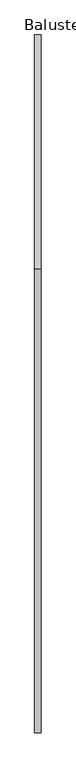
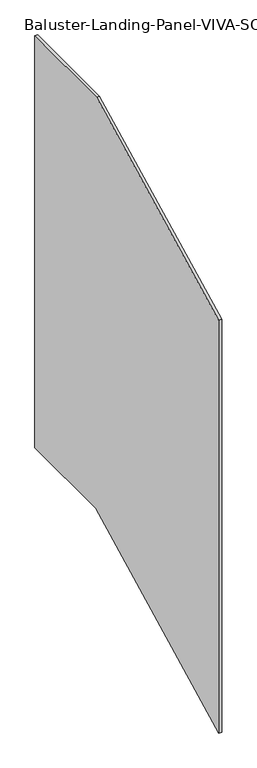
"""IFC4 building model written with IfcOpenShell, lengths in millimetres: railing geometry, Baluster-Landing-Panel-VIVA-SOLO-Lower : Standard_Glass."""

from ifc_helpers import new_model, si_unit, frame, origin, place, context, project, spatial, polyline, outline, extrude, source, transform, mapped, element, save


def baluster_landing_panel_viva_solo_lower_standard_glass_5c29c0c0(model_context):
    return source(origin(), model_context, "Body", "SweptSolid", [
        extrude(outline(polyline([(680.085, 1112.52), (1025.525, 1112.52), (1025.525, -297.8203202), (685.3191767, -297.8203202), (-5.0108793, -649.2575757), (-5.0108793, 763.7473897), (680.085, 1112.52)])), frame((33.3375, 0.0, 0.0), z_axis=(1.0, 0.0, 0.0), x_axis=(0.0, 1.0, 0.0)), (0.0, 0.0, 1.0), 9.525),
    ])


if __name__ == "__main__":
    model = new_model("IFC4")
    model_context = context("Model", 3, world=origin())
    ifc_project = project(units=[si_unit("LENGTHUNIT", "METRE", prefix="MILLI")], contexts=[model_context])
    site = spatial("IfcSite", under=ifc_project)
    building = spatial("IfcBuilding", under=site)
    placement = place(None, origin())
    baluster_landing_panel_viva_solo_lower_standard_glass_shape = baluster_landing_panel_viva_solo_lower_standard_glass_5c29c0c0(model_context)
    element("IfcRailing", 1, ObjectType="Baluster-Landing-Panel-VIVA-SOLO-Lower : Standard_Glass", at=placement, inside=building, context=model_context, shape_type="MappedRepresentation", body=[
        mapped(baluster_landing_panel_viva_solo_lower_standard_glass_shape, transform((0.0, 0.0, 0.0), x_axis=(1.0, 0.0, 0.0), y_axis=(0.0, 1.0, 0.0), z_axis=(0.0, 0.0, 1.0))),
    ])
    save(model, "model.ifc")
